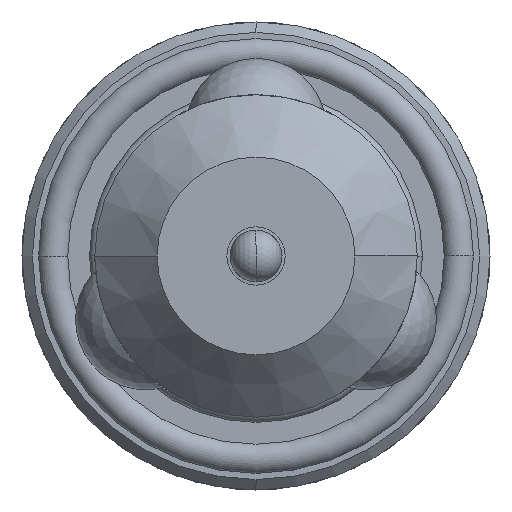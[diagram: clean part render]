
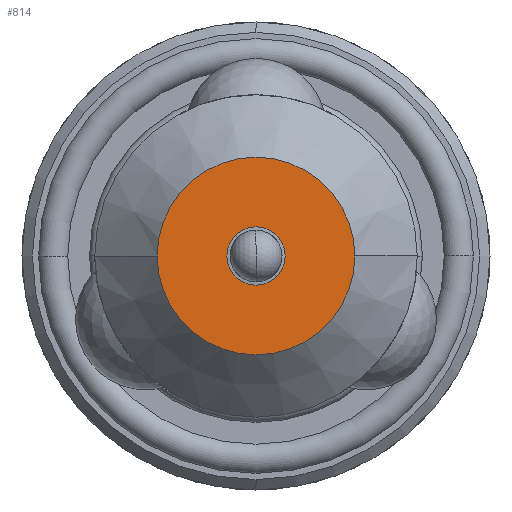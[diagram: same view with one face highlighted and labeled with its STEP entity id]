
A CAD part, front view. The second image highlights one B-rep face of the part: STEP entity #814.
In plain terms, the highlighted planar face has unit normal (0, -1, 0).
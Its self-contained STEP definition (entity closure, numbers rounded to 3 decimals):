
#79 = FACE_OUTER_BOUND ( 'NONE', #1835, .T. ) ;
#175 = EDGE_CURVE ( 'NONE', #3183, #1687, #4162, .T. ) ;
#194 = FACE_BOUND ( 'NONE', #1475, .T. ) ;
#251 = CIRCLE ( 'NONE', #4550, 4.75 ) ;
#353 = DIRECTION ( 'NONE',  ( 0., -1., 0. ) ) ;
#698 = ORIENTED_EDGE ( 'NONE', *, *, #5054, .F. ) ;
#723 = VERTEX_POINT ( 'NONE', #4260 ) ;
#814 = ADVANCED_FACE ( 'NONE', ( #194, #79 ), #3423, .T. ) ;
#1037 = ORIENTED_EDGE ( 'NONE', *, *, #1667, .F. ) ;
#1199 = AXIS2_PLACEMENT_3D ( 'NONE', #3221, #3110, #3032 ) ;
#1470 = CARTESIAN_POINT ( 'NONE',  ( 0., -38.7, 0. ) ) ;
#1475 = EDGE_LOOP ( 'NONE', ( #698, #3832 ) ) ;
#1667 = EDGE_CURVE ( 'NONE', #723, #4992, #251, .T. ) ;
#1687 = VERTEX_POINT ( 'NONE', #2291 ) ;
#1835 = EDGE_LOOP ( 'NONE', ( #1037, #4857 ) ) ;
#1848 = CARTESIAN_POINT ( 'NONE',  ( -1.4, -38.7, 0. ) ) ;
#1870 = DIRECTION ( 'NONE',  ( -1., 0., 0. ) ) ;
#2291 = CARTESIAN_POINT ( 'NONE',  ( 1.4, -38.7, 0. ) ) ;
#2350 = DIRECTION ( 'NONE',  ( 0., 1., 0. ) ) ;
#2815 = CARTESIAN_POINT ( 'NONE',  ( 0., -38.7, 0. ) ) ;
#3032 = DIRECTION ( 'NONE',  ( 1., 0., 0. ) ) ;
#3110 = DIRECTION ( 'NONE',  ( 0., -1., 0. ) ) ;
#3141 = AXIS2_PLACEMENT_3D ( 'NONE', #4883, #4870, #4845 ) ;
#3183 = VERTEX_POINT ( 'NONE', #1848 ) ;
#3218 = DIRECTION ( 'NONE',  ( 1., 0., 0. ) ) ;
#3221 = CARTESIAN_POINT ( 'NONE',  ( -4.75, -38.7, 0. ) ) ;
#3412 = AXIS2_PLACEMENT_3D ( 'NONE', #4781, #2350, #5184 ) ;
#3423 = PLANE ( 'NONE',  #1199 ) ;
#3832 = ORIENTED_EDGE ( 'NONE', *, *, #175, .F. ) ;
#3834 = CIRCLE ( 'NONE', #4915, 1.4 ) ;
#3871 = EDGE_CURVE ( 'NONE', #4992, #723, #5132, .T. ) ;
#4162 = CIRCLE ( 'NONE', #3141, 1.4 ) ;
#4260 = CARTESIAN_POINT ( 'NONE',  ( -4.75, -38.7, 0. ) ) ;
#4312 = DIRECTION ( 'NONE',  ( 0., 1., 0. ) ) ;
#4550 = AXIS2_PLACEMENT_3D ( 'NONE', #1470, #4312, #1870 ) ;
#4781 = CARTESIAN_POINT ( 'NONE',  ( 0., -38.7, 0. ) ) ;
#4801 = CARTESIAN_POINT ( 'NONE',  ( 4.75, -38.7, 0. ) ) ;
#4845 = DIRECTION ( 'NONE',  ( 1., 0., 0. ) ) ;
#4857 = ORIENTED_EDGE ( 'NONE', *, *, #3871, .F. ) ;
#4870 = DIRECTION ( 'NONE',  ( 0., -1., 0. ) ) ;
#4883 = CARTESIAN_POINT ( 'NONE',  ( 0., -38.7, 0. ) ) ;
#4915 = AXIS2_PLACEMENT_3D ( 'NONE', #2815, #353, #3218 ) ;
#4992 = VERTEX_POINT ( 'NONE', #4801 ) ;
#5054 = EDGE_CURVE ( 'NONE', #1687, #3183, #3834, .T. ) ;
#5132 = CIRCLE ( 'NONE', #3412, 4.75 ) ;
#5184 = DIRECTION ( 'NONE',  ( -1., 0., 0. ) ) ;
